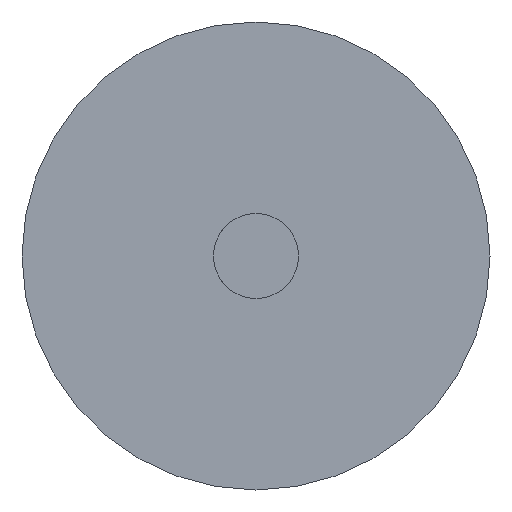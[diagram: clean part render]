
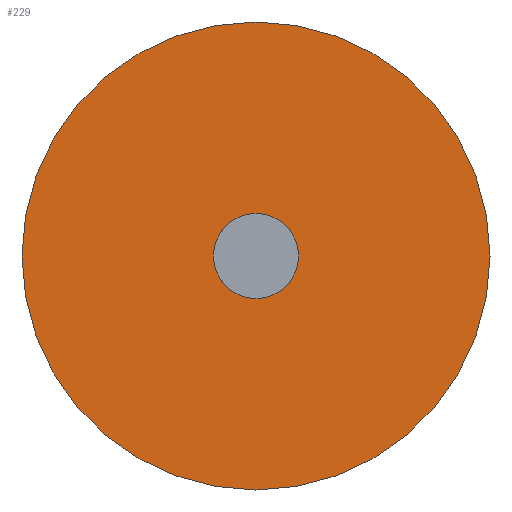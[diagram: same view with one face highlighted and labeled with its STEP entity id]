
A CAD part, front view. The second image highlights one B-rep face of the part: STEP entity #229.
In plain terms, the highlighted planar face has unit normal (0, -1, 0).
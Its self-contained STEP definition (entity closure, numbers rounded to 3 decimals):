
#33 = CARTESIAN_POINT ( 'NONE',  ( 2.5, 0., 0. ) ) ;
#37 = VERTEX_POINT ( 'NONE', #352 ) ;
#55 = DIRECTION ( 'NONE',  ( 1., 0., 0. ) ) ;
#98 = DIRECTION ( 'NONE',  ( 1., 0., 0. ) ) ;
#108 = ORIENTED_EDGE ( 'NONE', *, *, #441, .T. ) ;
#134 = EDGE_CURVE ( 'NONE', #1238, #37, #860, .T. ) ;
#218 = ORIENTED_EDGE ( 'NONE', *, *, #316, .F. ) ;
#219 = EDGE_LOOP ( 'NONE', ( #746, #108 ) ) ;
#227 = CARTESIAN_POINT ( 'NONE',  ( 13.75, 0., 0. ) ) ;
#229 = ADVANCED_FACE ( 'NONE', ( #321, #1314 ), #986, .T. ) ;
#231 = DIRECTION ( 'NONE',  ( 1., 0., 0. ) ) ;
#253 = AXIS2_PLACEMENT_3D ( 'NONE', #390, #1254, #55 ) ;
#309 = AXIS2_PLACEMENT_3D ( 'NONE', #756, #885, #98 ) ;
#316 = EDGE_CURVE ( 'NONE', #1206, #881, #810, .T. ) ;
#321 = FACE_OUTER_BOUND ( 'NONE', #219, .T. ) ;
#327 = DIRECTION ( 'NONE',  ( 0., -1., 0. ) ) ;
#352 = CARTESIAN_POINT ( 'NONE',  ( -13.75, 0., 0. ) ) ;
#390 = CARTESIAN_POINT ( 'NONE',  ( 0., 0., 0. ) ) ;
#440 = CARTESIAN_POINT ( 'NONE',  ( 0., 0., 0. ) ) ;
#441 = EDGE_CURVE ( 'NONE', #37, #1238, #1170, .T. ) ;
#596 = AXIS2_PLACEMENT_3D ( 'NONE', #1237, #1133, #231 ) ;
#630 = DIRECTION ( 'NONE',  ( 0., -1., 0. ) ) ;
#651 = CARTESIAN_POINT ( 'NONE',  ( 0., 0., 0. ) ) ;
#732 = EDGE_CURVE ( 'NONE', #881, #1206, #1173, .T. ) ;
#746 = ORIENTED_EDGE ( 'NONE', *, *, #134, .T. ) ;
#756 = CARTESIAN_POINT ( 'NONE',  ( 13.75, 0., 0. ) ) ;
#798 = DIRECTION ( 'NONE',  ( 1., 0., 0. ) ) ;
#810 = CIRCLE ( 'NONE', #1358, 2.5 ) ;
#860 = CIRCLE ( 'NONE', #596, 13.75 ) ;
#881 = VERTEX_POINT ( 'NONE', #1435 ) ;
#885 = DIRECTION ( 'NONE',  ( 0., -1., 0. ) ) ;
#986 = PLANE ( 'NONE',  #309 ) ;
#1033 = AXIS2_PLACEMENT_3D ( 'NONE', #651, #630, #1100 ) ;
#1036 = ORIENTED_EDGE ( 'NONE', *, *, #732, .F. ) ;
#1100 = DIRECTION ( 'NONE',  ( 1., 0., 0. ) ) ;
#1133 = DIRECTION ( 'NONE',  ( 0., -1., 0. ) ) ;
#1134 = EDGE_LOOP ( 'NONE', ( #218, #1036 ) ) ;
#1170 = CIRCLE ( 'NONE', #1033, 13.75 ) ;
#1173 = CIRCLE ( 'NONE', #253, 2.5 ) ;
#1206 = VERTEX_POINT ( 'NONE', #33 ) ;
#1237 = CARTESIAN_POINT ( 'NONE',  ( 0., 0., 0. ) ) ;
#1238 = VERTEX_POINT ( 'NONE', #227 ) ;
#1254 = DIRECTION ( 'NONE',  ( 0., -1., 0. ) ) ;
#1314 = FACE_BOUND ( 'NONE', #1134, .T. ) ;
#1358 = AXIS2_PLACEMENT_3D ( 'NONE', #440, #327, #798 ) ;
#1435 = CARTESIAN_POINT ( 'NONE',  ( -2.5, 0., 0. ) ) ;
